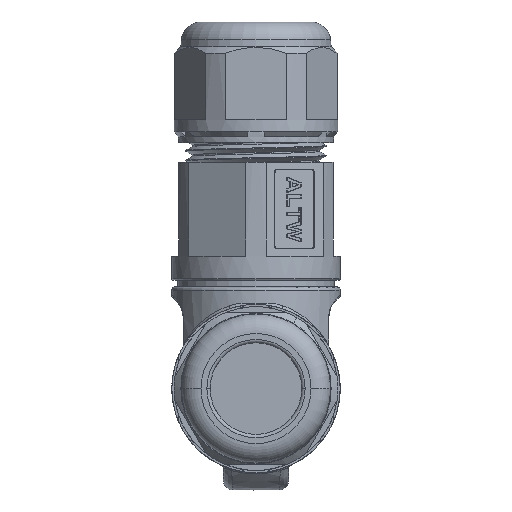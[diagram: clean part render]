
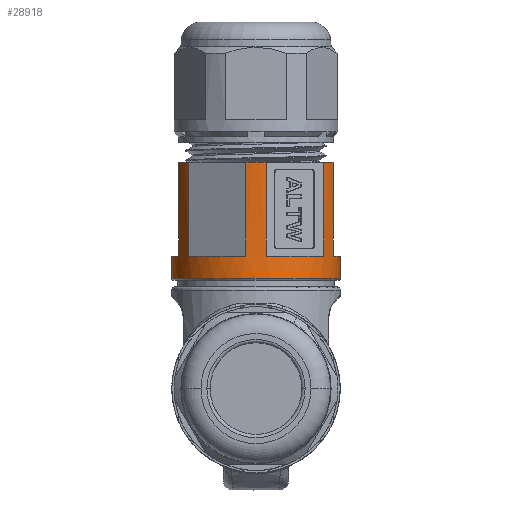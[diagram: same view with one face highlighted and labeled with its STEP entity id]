
A CAD part, front view. The second image highlights one B-rep face of the part: STEP entity #28918.
In plain terms, the highlighted cylindrical face has radius 12.9 mm (diameter 25.8 mm), a partial arc.
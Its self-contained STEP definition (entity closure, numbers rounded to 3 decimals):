
#9286=DIRECTION('',(0.,0.,-1.));
#9287=VECTOR('',#9286,3.4);
#9288=CARTESIAN_POINT('',(-12.9,13.45,20.3));
#9289=LINE('',#9288,#9287);
#9290=CARTESIAN_POINT('',(0.,13.45,16.9));
#9291=DIRECTION('',(0.,0.,-1.));
#9292=DIRECTION('',(1.,0.,0.));
#9293=AXIS2_PLACEMENT_3D('',#9290,#9291,#9292);
#9295=DIRECTION('',(0.,0.,1.));
#9296=VECTOR('',#9295,14.4);
#9297=CARTESIAN_POINT('',(-11.875,8.411,20.3));
#9298=LINE('',#9297,#9296);
#9299=DIRECTION('',(0.,0.,-1.));
#9300=VECTOR('',#9299,14.4);
#9301=CARTESIAN_POINT('',(-10.302,5.686,34.7));
#9302=LINE('',#9301,#9300);
#9303=DIRECTION('',(0.,0.,1.));
#9304=VECTOR('',#9303,14.4);
#9305=CARTESIAN_POINT('',(-1.573,0.646,20.3));
#9306=LINE('',#9305,#9304);
#9307=DIRECTION('',(0.,0.,-1.));
#9308=VECTOR('',#9307,14.4);
#9309=CARTESIAN_POINT('',(1.573,0.646,34.7));
#9310=LINE('',#9309,#9308);
#9311=DIRECTION('',(0.,0.,1.));
#9312=VECTOR('',#9311,14.4);
#9313=CARTESIAN_POINT('',(10.302,5.686,20.3));
#9314=LINE('',#9313,#9312);
#9315=DIRECTION('',(0.,0.,-1.));
#9316=VECTOR('',#9315,14.4);
#9317=CARTESIAN_POINT('',(11.875,8.411,34.7));
#9318=LINE('',#9317,#9316);
#9319=DIRECTION('',(0.,0.,-1.));
#9320=VECTOR('',#9319,3.4);
#9321=CARTESIAN_POINT('',(12.9,13.45,20.3));
#9322=LINE('',#9321,#9320);
#9323=CARTESIAN_POINT('',(0.,13.45,20.3));
#9324=DIRECTION('',(0.,0.,-1.));
#9325=DIRECTION('',(-0.921,-0.391,0.));
#9326=AXIS2_PLACEMENT_3D('',#9323,#9324,#9325);
#9345=CARTESIAN_POINT('',(0.,13.45,34.7));
#9346=DIRECTION('',(0.,0.,-1.));
#9347=DIRECTION('',(0.122,-0.993,0.));
#9348=AXIS2_PLACEMENT_3D('',#9345,#9346,#9347);
#9354=CARTESIAN_POINT('',(0.,13.45,34.7));
#9355=DIRECTION('',(0.,0.,-1.));
#9356=DIRECTION('',(-0.799,-0.602,0.));
#9357=AXIS2_PLACEMENT_3D('',#9354,#9355,#9356);
#9382=CARTESIAN_POINT('',(0.,13.45,34.7));
#9383=DIRECTION('',(0.,0.,-1.));
#9384=DIRECTION('',(0.921,-0.391,0.));
#9385=AXIS2_PLACEMENT_3D('',#9382,#9383,#9384);
#9482=CARTESIAN_POINT('',(0.,13.45,20.3));
#9483=DIRECTION('',(0.,0.,-1.));
#9484=DIRECTION('',(0.799,-0.602,0.));
#9485=AXIS2_PLACEMENT_3D('',#9482,#9483,#9484);
#10027=CARTESIAN_POINT('',(0.,13.45,20.3));
#10028=DIRECTION('',(0.,0.,-1.));
#10029=DIRECTION('',(-0.122,-0.993,0.));
#10030=AXIS2_PLACEMENT_3D('',#10027,#10028,#10029);
#11530=CARTESIAN_POINT('',(0.,13.45,20.3));
#11531=DIRECTION('',(0.,0.,-1.));
#11532=DIRECTION('',(1.,0.,0.));
#11533=AXIS2_PLACEMENT_3D('',#11530,#11531,#11532);
#14028=CARTESIAN_POINT('',(10.302,5.686,34.7));
#14029=CARTESIAN_POINT('',(1.573,0.646,34.7));
#14030=VERTEX_POINT('',#14028);
#14031=VERTEX_POINT('',#14029);
#14032=CARTESIAN_POINT('',(-1.573,0.646,34.7));
#14033=VERTEX_POINT('',#14032);
#14034=CARTESIAN_POINT('',(-10.302,5.686,34.7));
#14035=VERTEX_POINT('',#14034);
#14036=CARTESIAN_POINT('',(-11.875,8.411,34.7));
#14037=VERTEX_POINT('',#14036);
#14050=CARTESIAN_POINT('',(11.875,8.411,34.7));
#14051=VERTEX_POINT('',#14050);
#14054=CARTESIAN_POINT('',(10.302,5.686,20.3));
#14055=VERTEX_POINT('',#14054);
#14056=CARTESIAN_POINT('',(1.573,0.646,20.3));
#14057=VERTEX_POINT('',#14056);
#14074=CARTESIAN_POINT('',(-12.9,13.45,20.3));
#14075=CARTESIAN_POINT('',(-12.9,13.45,16.9));
#14076=VERTEX_POINT('',#14074);
#14077=VERTEX_POINT('',#14075);
#14078=CARTESIAN_POINT('',(-11.875,8.411,20.3));
#14079=VERTEX_POINT('',#14078);
#14080=CARTESIAN_POINT('',(-10.302,5.686,20.3));
#14081=VERTEX_POINT('',#14080);
#14082=CARTESIAN_POINT('',(-1.573,0.646,20.3));
#14083=VERTEX_POINT('',#14082);
#14084=CARTESIAN_POINT('',(11.875,8.411,20.3));
#14085=VERTEX_POINT('',#14084);
#14086=CARTESIAN_POINT('',(12.9,13.45,20.3));
#14087=VERTEX_POINT('',#14086);
#14088=CARTESIAN_POINT('',(12.9,13.45,16.9));
#14089=VERTEX_POINT('',#14088);
#28882=CARTESIAN_POINT('',(0.,13.45,54.4));
#28883=DIRECTION('',(0.,0.,-1.));
#28884=DIRECTION('',(1.,0.,0.));
#28885=AXIS2_PLACEMENT_3D('',#28882,#28883,#28884);
#28886=CYLINDRICAL_SURFACE('',#28885,12.9);
#28887=ORIENTED_EDGE('',*,*,#28823,.T.);
#28888=ORIENTED_EDGE('',*,*,#28877,.F.);
#28890=ORIENTED_EDGE('',*,*,#28889,.F.);
#28892=ORIENTED_EDGE('',*,*,#28891,.T.);
#28894=ORIENTED_EDGE('',*,*,#28893,.F.);
#28896=ORIENTED_EDGE('',*,*,#28895,.T.);
#28898=ORIENTED_EDGE('',*,*,#28897,.F.);
#28900=ORIENTED_EDGE('',*,*,#28899,.T.);
#28902=ORIENTED_EDGE('',*,*,#28901,.F.);
#28904=ORIENTED_EDGE('',*,*,#28903,.T.);
#28906=ORIENTED_EDGE('',*,*,#28905,.F.);
#28908=ORIENTED_EDGE('',*,*,#28907,.T.);
#28910=ORIENTED_EDGE('',*,*,#28909,.F.);
#28912=ORIENTED_EDGE('',*,*,#28911,.T.);
#28914=ORIENTED_EDGE('',*,*,#28913,.F.);
#28915=ORIENTED_EDGE('',*,*,#28849,.T.);
#28916=EDGE_LOOP('',(#28887,#28888,#28890,#28892,#28894,#28896,#28898,#28900,
#28902,#28904,#28906,#28908,#28910,#28912,#28914,#28915));
#28917=FACE_OUTER_BOUND('',#28916,.F.);
#28918=ADVANCED_FACE('',(#28917),#28886,.T.);
#9294=CIRCLE('',#9293,12.9);
#9327=CIRCLE('',#9326,12.9);
#9349=CIRCLE('',#9348,12.9);
#9358=CIRCLE('',#9357,12.9);
#9386=CIRCLE('',#9385,12.9);
#9486=CIRCLE('',#9485,12.9);
#10031=CIRCLE('',#10030,12.9);
#11534=CIRCLE('',#11533,12.9);
#28823=EDGE_CURVE('',#14089,#14077,#9294,.T.);
#28849=EDGE_CURVE('',#14087,#14089,#9322,.T.);
#28877=EDGE_CURVE('',#14076,#14077,#9289,.T.);
#28889=EDGE_CURVE('',#14079,#14076,#9327,.T.);
#28891=EDGE_CURVE('',#14079,#14037,#9298,.T.);
#28893=EDGE_CURVE('',#14035,#14037,#9358,.T.);
#28895=EDGE_CURVE('',#14035,#14081,#9302,.T.);
#28897=EDGE_CURVE('',#14083,#14081,#10031,.T.);
#28899=EDGE_CURVE('',#14083,#14033,#9306,.T.);
#28901=EDGE_CURVE('',#14031,#14033,#9349,.T.);
#28903=EDGE_CURVE('',#14031,#14057,#9310,.T.);
#28905=EDGE_CURVE('',#14055,#14057,#9486,.T.);
#28907=EDGE_CURVE('',#14055,#14030,#9314,.T.);
#28909=EDGE_CURVE('',#14051,#14030,#9386,.T.);
#28911=EDGE_CURVE('',#14051,#14085,#9318,.T.);
#28913=EDGE_CURVE('',#14087,#14085,#11534,.T.);
